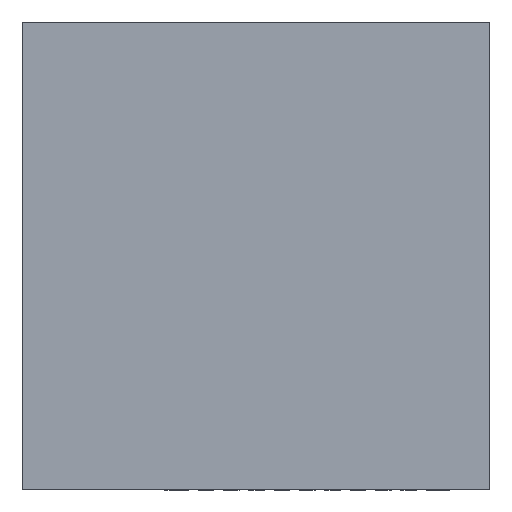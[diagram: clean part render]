
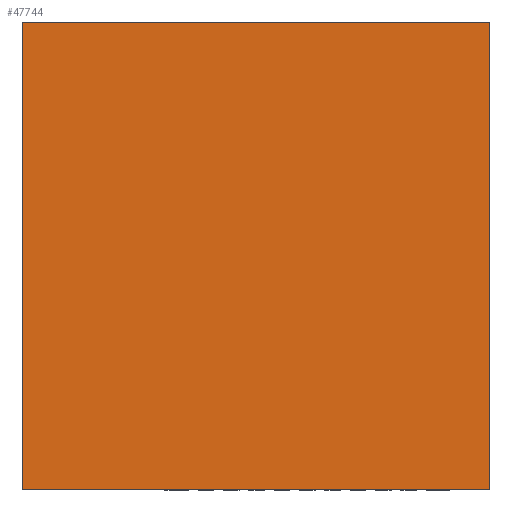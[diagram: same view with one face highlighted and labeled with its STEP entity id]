
A CAD part, top view. The second image highlights one B-rep face of the part: STEP entity #47744.
In plain terms, the highlighted planar face has unit normal (0, 0, 1) as drawn and (0, 1, 0) by its records, which use the part's own axes.
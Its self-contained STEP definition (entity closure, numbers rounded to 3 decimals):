
#36438=DIRECTION('',(1.,0.,0.));
#36439=VECTOR('',#36438,12.);
#36440=CARTESIAN_POINT('',(-6.,0.975,6.));
#36441=LINE('',#36440,#36439);
#36445=DIRECTION('',(0.,0.,1.));
#36446=VECTOR('',#36445,12.);
#36447=CARTESIAN_POINT('',(-6.,0.975,-6.));
#36448=LINE('',#36447,#36446);
#36452=DIRECTION('',(-1.,0.,0.));
#36453=VECTOR('',#36452,12.);
#36454=CARTESIAN_POINT('',(6.,0.975,-6.));
#36455=LINE('',#36454,#36453);
#36459=DIRECTION('',(0.,0.,-1.));
#36460=VECTOR('',#36459,12.);
#36461=CARTESIAN_POINT('',(6.,0.975,6.));
#36462=LINE('',#36461,#36460);
#40477=CARTESIAN_POINT('',(-6.,0.975,6.));
#40478=CARTESIAN_POINT('',(6.,0.975,6.));
#40479=VERTEX_POINT('',#40477);
#40480=VERTEX_POINT('',#40478);
#40481=CARTESIAN_POINT('',(6.,0.975,-6.));
#40482=VERTEX_POINT('',#40481);
#40483=CARTESIAN_POINT('',(-6.,0.975,-6.));
#40484=VERTEX_POINT('',#40483);
#47733=CARTESIAN_POINT('',(0.,0.975,0.));
#47734=DIRECTION('',(0.,1.,0.));
#47735=DIRECTION('',(1.,0.,0.));
#47736=AXIS2_PLACEMENT_3D('',#47733,#47734,#47735);
#47737=PLANE('',#47736);
#47738=ORIENTED_EDGE('',*,*,#43563,.F.);
#47739=ORIENTED_EDGE('',*,*,#47040,.F.);
#47740=ORIENTED_EDGE('',*,*,#46163,.F.);
#47741=ORIENTED_EDGE('',*,*,#46893,.F.);
#47742=EDGE_LOOP('',(#47738,#47739,#47740,#47741));
#47743=FACE_OUTER_BOUND('',#47742,.F.);
#47744=ADVANCED_FACE('',(#47743),#47737,.T.);
#43563=EDGE_CURVE('',#40479,#40480,#36441,.T.);
#46163=EDGE_CURVE('',#40482,#40484,#36455,.T.);
#46893=EDGE_CURVE('',#40480,#40482,#36462,.T.);
#47040=EDGE_CURVE('',#40484,#40479,#36448,.T.);
